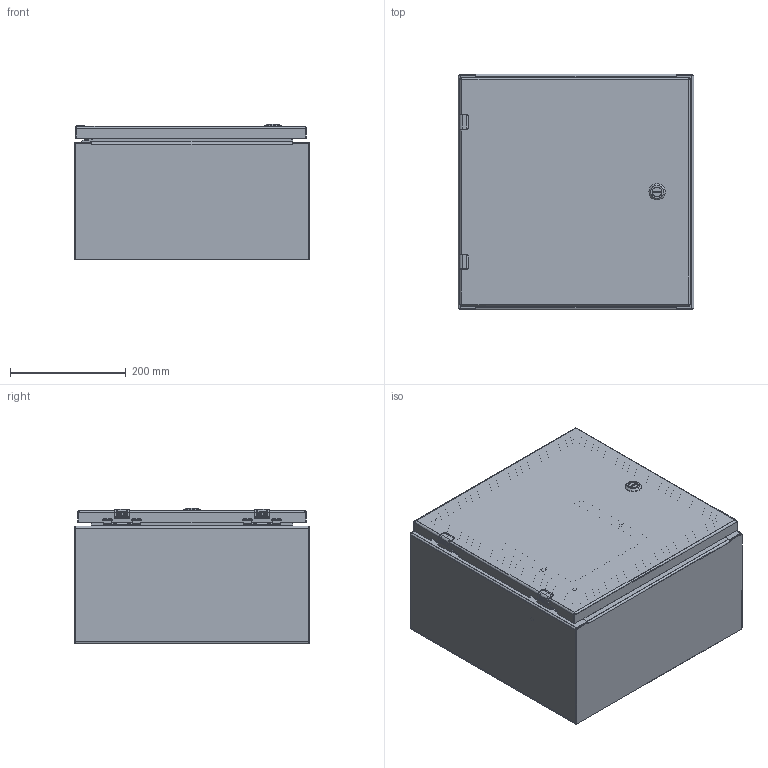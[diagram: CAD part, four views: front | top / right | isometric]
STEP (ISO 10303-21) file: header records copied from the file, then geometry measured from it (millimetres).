
FILE_DESCRIPTION((''),'2;1');
FILE_NAME('MODEL-306_ASM','2021-04-29T13:05:04',('chads'),('SAGINAW CONTROL & ENGINEERING'),'CREO PARAMETRIC BY PTC INC, 2017260','CREO PARAMETRIC BY PTC INC, 2017260','');
FILE_SCHEMA(('AUTOMOTIVE_DESIGN { 1 0 10303 214 1 1 1 1 }'));
Length unit declared in the file: inch
Products named in the file (29): MODEL-306-BDY; MODEL-306-TP; MODEL-306-BTM; MODEL-306-DR; 100837; 100882; 111541; 100794_SHAFT; 100794_INSERT; 100794_CAM; 100794_NUT; 100794_SCREW; 100794_ASM; MODEL-306-DOOR-GASKET; 126392; 126397; 126392_ASM; 126395; 102483; 101226; 101389; 102140; MODEL-306-DOOR-ASSY_ASM; 101651; 122191; SUBPANEL; 100904; SUBPANEL-SUBASSEMBLY_ASM; MODEL-306_ASM
Assembly tree (48 placements, depth 4):
  MODEL-306_ASM
    MODEL-306-BDY
    MODEL-306-TP
    MODEL-306-BTM
    MODEL-306-DOOR-ASSY_ASM
      MODEL-306-DR
      100837  x3
      100882  x2
      111541
      100794_ASM
        100794_SHAFT
        100794_INSERT
        100794_CAM
        100794_NUT
        100794_SCREW
      MODEL-306-DOOR-GASKET
      126392_ASM  x2
        126392
        126397
      126395  x2
      102483  x6
      101226  x2
      101389  x2
      102140  x2
    100837
    101651  x4
    122191
    SUBPANEL-SUBASSEMBLY_ASM
      SUBPANEL
      100904  x4
Bounding box: 406.4 x 406.4 x 234.45 mm (x, y, z)
Volume: 2041162.7 mm3; surface area: 1902946.3 mm2
Topology: 44 solids, 44 shells, 2597 faces, 6571 edges, 4112 vertices
Faces by surface type: plane 1078, cylinder 712, bspline 432, torus 223, cone 96, sphere 56
Entity records: 82940 total; most frequent: CARTESIAN_POINT 22899, ORIENTED_EDGE 8380, DIRECTION 7881, PRESENTATION_STYLE_ASSIGNMENT 4387, EDGE_CURVE 4190, STYLED_ITEM 4112, CURVE_STYLE 4028, AXIS2_PLACEMENT_3D 2878
